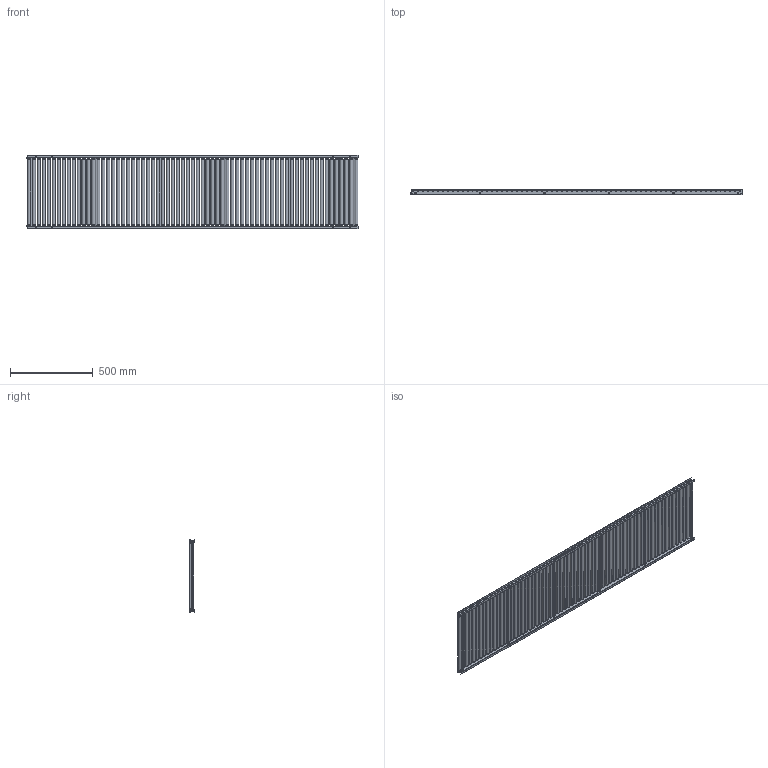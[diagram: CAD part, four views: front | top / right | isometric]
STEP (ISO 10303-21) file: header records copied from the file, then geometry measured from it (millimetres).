
FILE_DESCRIPTION (( 'STEP AP203' ), '1' );
FILE_NAME ('R-1912PB.step', '2024-02-26T06:36:32', ( '' ), ( '' ), 'SwSTEP 2.0', 'SolidWorks 2023', '' );
FILE_SCHEMA (( 'CONFIG_CONTROL_DESIGN' ));
Length unit declared in the file: millimetre
Products named in the file (1): R-1912PB
Bounding box: 2008 x 31.54 x 445 mm (x, y, z)
Volume: 7831670.6 mm3; surface area: 3704885.6 mm2
Topology: 168 solids, 168 shells, 2573 faces, 5877 edges, 3774 vertices
Faces by surface type: cylinder 1232, plane 1025, torus 268, cone 48
Entity records: 74434 total; most frequent: DIRECTION 14341, CARTESIAN_POINT 12345, ORIENTED_EDGE 11706, AXIS2_PLACEMENT_3D 5962, EDGE_CURVE 5853, VERTEX_POINT 3774, CIRCLE 3388, EDGE_LOOP 3335
